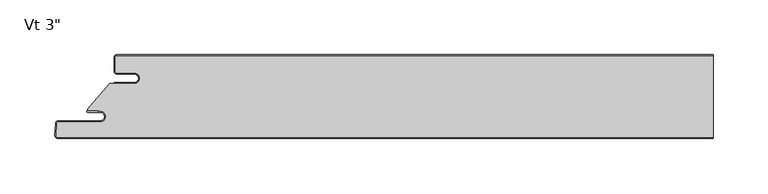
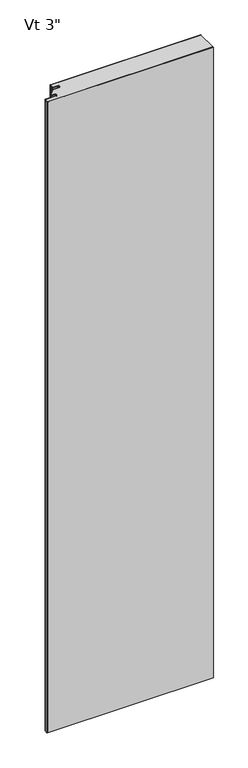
"""IFC4 building model written with IfcOpenShell, lengths in millimetres: plate geometry."""

from ifc_helpers import new_model, si_unit, point, frame_2d, origin, origin_with_axes, place, context, project, spatial, polyline, circle_curve, trimmed, segment, composite_curve, outline, extrude, source, transform, mapped, element, save


def plate_a92ee706(model_context):
    return source(origin(), model_context, "Body", "SweptSolid", [
        extrude(outline(composite_curve([segment(polyline([(-253.7437498, -16.4625), (-269.6187498, -16.4625)]), True, "CONTINUOUS"), segment(trimmed(circle_curve(frame_2d((-269.6187498, -15.08125)), 1.38125), [point((-269.6187498, -16.4625))], [point((-270.9999998, -15.08125))], False, "CARTESIAN"), True, "CONTINUOUS"), segment(polyline([(-270.9999998, -15.08125), (-270.9999998, -2.38125)]), True, "CONTINUOUS"), segment(trimmed(circle_curve(frame_2d((-269.6187498, -2.38125)), 1.38125), [point((-270.9999998, -2.38125))], [point((-269.6187498, -1.0))], False, "CARTESIAN"), True, "CONTINUOUS"), segment(polyline([(-269.6187498, -1.0), (272.8062498, -1.0), (272.8062498, -75.2), (-323.4799534, -75.2)]), True, "CONTINUOUS"), segment(trimmed(circle_curve(frame_2d((-323.4799534, -73.81875)), 1.38125), [point((-323.4799534, -75.2))], [point((-324.8593104, -73.746461))], False, "CARTESIAN"), True, "CONTINUOUS"), segment(polyline([(-324.8593104, -73.746461), (-324.276929, -62.633961)]), True, "CONTINUOUS"), segment(trimmed(circle_curve(frame_2d((-322.8975719, -62.70625)), 1.38125), [point((-324.276929, -62.633961))], [point((-322.8975719, -61.325))], False, "CARTESIAN"), True, "CONTINUOUS"), segment(polyline([(-322.8975719, -61.325), (-284.7142673, -61.325)]), True, "CONTINUOUS"), segment(trimmed(circle_curve(frame_2d((-284.7142673, -56.35625)), 4.96875), [point((-284.7142673, -61.325))], [point((-284.7142673, -51.3875))], True, "CARTESIAN"), True, "CONTINUOUS"), segment(polyline([(-284.7142673, -51.3875), (-286.3017673, -51.59375), (-286.3017673, -50.8), (-295.8124998, -50.8), (-295.8124998, -49.2157227), (-275.9260921, -26.4), (-253.7437498, -26.4)]), True, "CONTINUOUS"), segment(trimmed(circle_curve(frame_2d((-253.7437498, -21.43125)), 4.96875), [point((-253.7437498, -26.4))], [point((-253.7437498, -16.4625))], True, "CARTESIAN"), True, "CONTINUOUS")], self_intersect=False)), origin_with_axes(), (0.0, 0.0, 1.0), 2400.0),
        extrude(outline(composite_curve([segment(polyline([(-271.9999998, -25.4), (-253.7437498, -25.4)]), True, "CONTINUOUS"), segment(trimmed(circle_curve(frame_2d((-253.7437498, -21.43125)), 3.96875), [point((-253.7437498, -25.4))], [point((-253.7437498, -17.4625))], True, "CARTESIAN"), True, "CONTINUOUS"), segment(polyline([(-253.7437498, -17.4625), (-269.6187498, -17.4625)]), True, "CONTINUOUS"), segment(trimmed(circle_curve(frame_2d((-269.6187498, -15.08125)), 2.38125), [point((-269.6187498, -17.4625))], [point((-271.9999998, -15.08125))], False, "CARTESIAN"), True, "CONTINUOUS"), segment(polyline([(-271.9999998, -15.08125), (-271.9999998, -2.38125)]), True, "CONTINUOUS"), segment(trimmed(circle_curve(frame_2d((-269.6187498, -2.38125)), 2.38125), [point((-271.9999998, -2.38125))], [point((-269.6187498, 0.0))], False, "CARTESIAN"), True, "CONTINUOUS"), segment(polyline([(-269.6187498, 0.0), (272.8062498, 0.0), (272.8062498, -1.0), (-269.6187498, -1.0)]), True, "CONTINUOUS"), segment(trimmed(circle_curve(frame_2d((-269.6187498, -2.38125)), 1.38125), [point((-269.6187498, -1.0))], [point((-270.9999998, -2.38125))], True, "CARTESIAN"), True, "CONTINUOUS"), segment(polyline([(-270.9999998, -2.38125), (-270.9999998, -15.08125)]), True, "CONTINUOUS"), segment(trimmed(circle_curve(frame_2d((-269.6187498, -15.08125)), 1.38125), [point((-270.9999998, -15.08125))], [point((-269.6187498, -16.4625))], True, "CARTESIAN"), True, "CONTINUOUS"), segment(polyline([(-269.6187498, -16.4625), (-253.7437498, -16.4625)]), True, "CONTINUOUS"), segment(trimmed(circle_curve(frame_2d((-253.7437498, -21.43125)), 4.96875), [point((-253.7437498, -16.4625))], [point((-253.7437498, -26.4))], False, "CARTESIAN"), True, "CONTINUOUS"), segment(polyline([(-253.7437498, -26.4), (-271.9999998, -26.4), (-271.9999998, -25.4)]), True, "CONTINUOUS")], self_intersect=False)), origin_with_axes(), (0.0, 0.0, 1.0), 2400.0),
        extrude(outline(composite_curve([segment(polyline([(-296.0252048, -50.8), (-286.3017673, -50.8), (-286.3017673, -51.59375), (-284.7142673, -51.3875)]), True, "CONTINUOUS"), segment(trimmed(circle_curve(frame_2d((-284.7142673, -56.35625)), 4.96875), [point((-284.7142673, -51.3875))], [point((-284.7142673, -61.325))], False, "CARTESIAN"), True, "CONTINUOUS"), segment(polyline([(-284.7142673, -61.325), (-322.8975719, -61.325)]), True, "CONTINUOUS"), segment(trimmed(circle_curve(frame_2d((-322.8975719, -62.70625)), 1.38125), [point((-322.8975719, -61.325))], [point((-324.276929, -62.633961))], True, "CARTESIAN"), True, "CONTINUOUS"), segment(polyline([(-324.276929, -62.633961), (-324.8593104, -73.746461)]), True, "CONTINUOUS"), segment(trimmed(circle_curve(frame_2d((-323.4799534, -73.81875)), 1.38125), [point((-324.8593104, -73.746461))], [point((-323.4799534, -75.2))], True, "CARTESIAN"), True, "CONTINUOUS"), segment(polyline([(-323.4799534, -75.2), (272.8062498, -75.2), (272.8062498, -76.2), (-323.4799534, -76.2)]), True, "CONTINUOUS"), segment(trimmed(circle_curve(frame_2d((-323.4799534, -73.81875)), 2.38125), [point((-323.4799534, -76.2))], [point((-325.8579399, -73.694125))], False, "CARTESIAN"), True, "CONTINUOUS"), segment(polyline([(-325.8579399, -73.694125), (-325.2755585, -62.581625)]), True, "CONTINUOUS"), segment(trimmed(circle_curve(frame_2d((-322.8975719, -62.70625)), 2.38125), [point((-325.2755585, -62.581625))], [point((-322.8975719, -60.325))], False, "CARTESIAN"), True, "CONTINUOUS"), segment(polyline([(-322.8975719, -60.325), (-284.7142673, -60.325)]), True, "CONTINUOUS"), segment(trimmed(circle_curve(frame_2d((-284.7142673, -56.35625)), 3.96875), [point((-284.7142673, -60.325))], [point((-284.7142673, -52.3875))], True, "CARTESIAN"), True, "CONTINUOUS"), segment(polyline([(-284.7142673, -52.3875), (-296.0252048, -52.3875)]), True, "CONTINUOUS"), segment(trimmed(circle_curve(frame_2d((-296.0252048, -51.59375)), 0.79375), [point((-296.0252048, -52.3875))], [point((-296.0252048, -50.8))], False, "CARTESIAN"), True, "CONTINUOUS")], self_intersect=False)), origin_with_axes(), (0.0, 0.0, 1.0), 2400.0),
    ])


if __name__ == "__main__":
    model = new_model("IFC4")
    model_context = context("Model", 3, world=origin())
    ifc_project = project(units=[si_unit("LENGTHUNIT", "METRE", prefix="MILLI")], contexts=[model_context])
    site = spatial("IfcSite", under=ifc_project)
    building = spatial("IfcBuilding", under=site)
    placement = place(None, origin())
    plate_shape = plate_a92ee706(model_context)
    element("IfcPlate", 1, ObjectType="KIP-36-DWHR-R19-CP-Vt-F : Vt 3\"", at=placement, inside=building, context=model_context, shape_type="MappedRepresentation", body=[
        mapped(plate_shape, transform((0.0, 0.0, 0.0), x_axis=(1.0, 0.0, 0.0), y_axis=(0.0, 1.0, 0.0), z_axis=(0.0, 0.0, 1.0))),
    ])
    save(model, "model.ifc")
